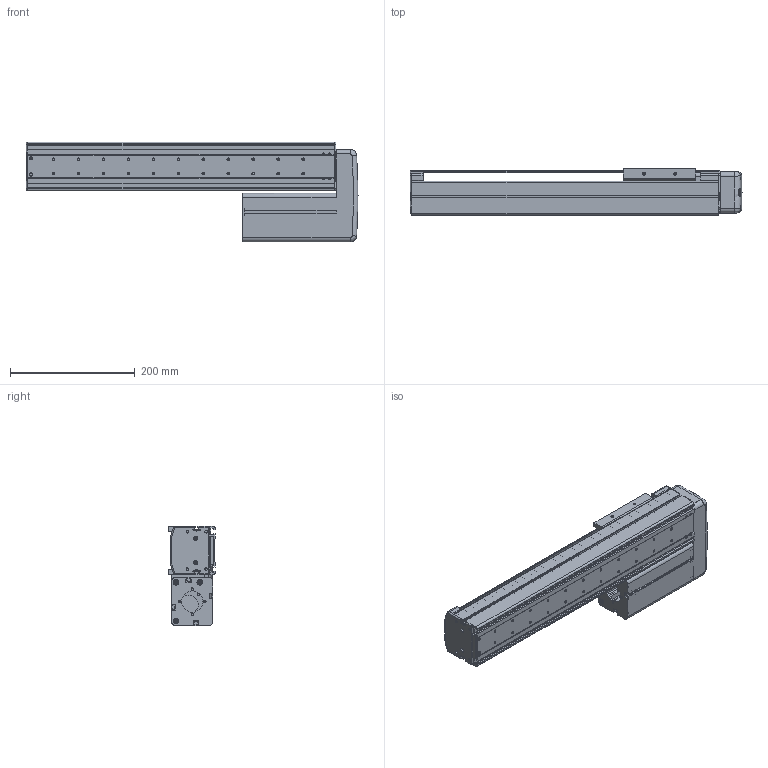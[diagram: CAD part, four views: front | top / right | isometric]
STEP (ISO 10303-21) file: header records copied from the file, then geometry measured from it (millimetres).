
FILE_DESCRIPTION((''),'2;1');
FILE_NAME('BE10E-UL-M_N-30_IGS_PRT','2017-06-17T',(' '),(''),'PRO/ENGINEER BY PARAMETRIC TECHNOLOGY CORPORATION, 2015030','PRO/ENGINEER BY PARAMETRIC TECHNOLOGY CORPORATION, 2015030','');
FILE_SCHEMA(('CONFIG_CONTROL_DESIGN'));
Length unit declared in the file: millimetre
Products named in the file (1): BE10E-UL-M_N-30_IGS_PRT
Bounding box: 532 x 75 x 160 mm (x, y, z)
Volume: 982438.6 mm3; surface area: 642642.1 mm2
Topology: 2 solids, 96 shells, 1723 faces, 4638 edges, 2999 vertices
Faces by surface type: cylinder 797, plane 698, cone 81, torus 71, sphere 44, bspline 32
Entity records: 56121 total; most frequent: CARTESIAN_POINT 11819, DIRECTION 9614, ORIENTED_EDGE 8848, EDGE_CURVE 4604, AXIS2_PLACEMENT_3D 3566, VERTEX_POINT 2999, VECTOR 2482, LINE 2482
